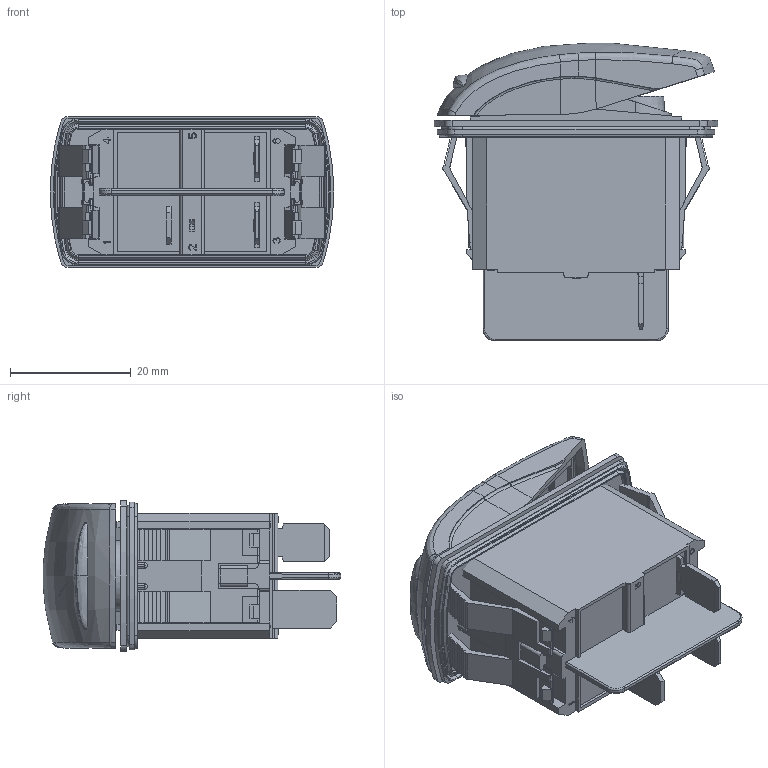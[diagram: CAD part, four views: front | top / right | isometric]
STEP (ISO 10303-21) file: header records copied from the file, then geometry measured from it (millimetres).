
FILE_DESCRIPTION((''),'2;1');
FILE_NAME('KR315AKPXD22N01XX02_SW0001','2015-09-07T',('brevel'),(''),'CREO PARAMETRIC BY PTC INC, 2014440','CREO PARAMETRIC BY PTC INC, 2014440','');
FILE_SCHEMA(('CONFIG_CONTROL_DESIGN'));
Length unit declared in the file: millimetre
Products named in the file (1): KR315AKPXD22N01XX02_SW0001
Bounding box: 47 x 49.31 x 25 mm (x, y, z)
Surface area: 19477 mm2 (no closed solid volume)
Topology: 0 solids, 34 shells, 898 faces, 2756 edges, 1864 vertices
Faces by surface type: plane 625, cylinder 144, torus 56, bspline 45, cone 20, sphere 6, extrusion 2
Entity records: 33923 total; most frequent: CARTESIAN_POINT 10070, ORIENTED_EDGE 4955, DIRECTION 4575, EDGE_CURVE 2751, VECTOR 2085, LINE 2083, VERTEX_POINT 1864, AXIS2_PLACEMENT_3D 1245
